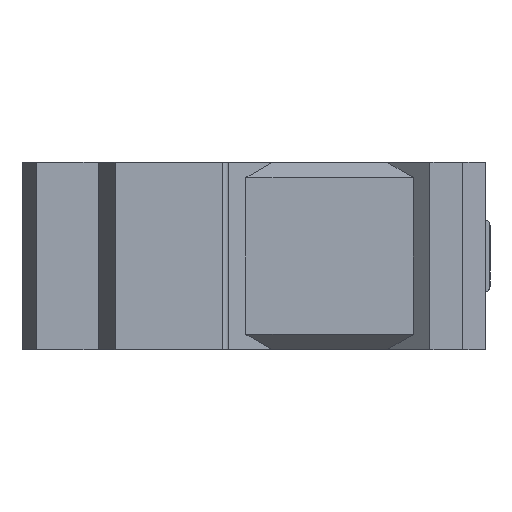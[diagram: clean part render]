
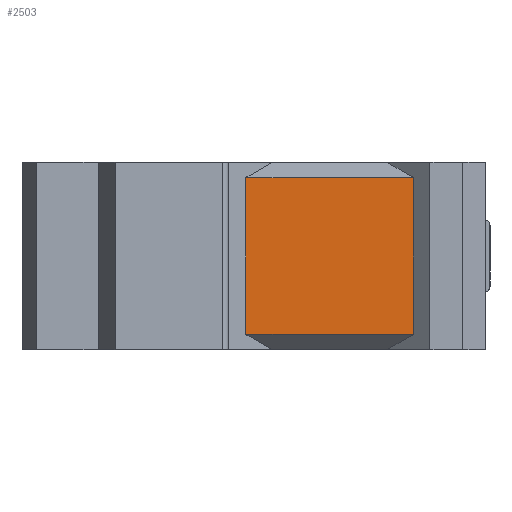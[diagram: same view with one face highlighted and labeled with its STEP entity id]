
A CAD part, left-side view. The second image highlights one B-rep face of the part: STEP entity #2503.
In plain terms, the highlighted planar face has unit normal (-1, 0, 0) as drawn and (1, 0, 0) by its records, which use the part's own axes.
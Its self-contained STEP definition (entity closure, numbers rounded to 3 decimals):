
#135 = CARTESIAN_POINT ( 'NONE',  ( 42.55, 16., 22.8 ) ) ;
#152 = FACE_OUTER_BOUND ( 'NONE', #915, .T. ) ;
#331 = VERTEX_POINT ( 'NONE', #1440 ) ;
#382 = EDGE_CURVE ( 'NONE', #2891, #2019, #928, .T. ) ;
#860 = ORIENTED_EDGE ( 'NONE', *, *, #2156, .T. ) ;
#915 = EDGE_LOOP ( 'NONE', ( #2560, #2958, #860, #1370 ) ) ;
#928 = LINE ( 'NONE', #1696, #1848 ) ;
#1237 = CARTESIAN_POINT ( 'NONE',  ( 42.55, 16., 19.05 ) ) ;
#1339 = DIRECTION ( 'NONE',  ( 0., 0., -1. ) ) ;
#1370 = ORIENTED_EDGE ( 'NONE', *, *, #382, .F. ) ;
#1440 = CARTESIAN_POINT ( 'NONE',  ( 42.55, 16., -19.05 ) ) ;
#1472 = EDGE_CURVE ( 'NONE', #1879, #2891, #1583, .T. ) ;
#1583 = LINE ( 'NONE', #2720, #1916 ) ;
#1615 = LINE ( 'NONE', #135, #2802 ) ;
#1696 = CARTESIAN_POINT ( 'NONE',  ( 42.55, 56.7, 22.8 ) ) ;
#1820 = AXIS2_PLACEMENT_3D ( 'NONE', #1860, #2248, #2945 ) ;
#1836 = CARTESIAN_POINT ( 'NONE',  ( 42.55, 56.7, -19.05 ) ) ;
#1848 = VECTOR ( 'NONE', #2642, 1000. ) ;
#1860 = CARTESIAN_POINT ( 'NONE',  ( 42.55, 56.7, 22.8 ) ) ;
#1879 = VERTEX_POINT ( 'NONE', #1237 ) ;
#1916 = VECTOR ( 'NONE', #2251, 1000. ) ;
#2019 = VERTEX_POINT ( 'NONE', #1836 ) ;
#2142 = EDGE_CURVE ( 'NONE', #1879, #331, #1615, .T. ) ;
#2156 = EDGE_CURVE ( 'NONE', #331, #2019, #2163, .T. ) ;
#2163 = LINE ( 'NONE', #2514, #2764 ) ;
#2248 = DIRECTION ( 'NONE',  ( -1., 0., 0. ) ) ;
#2251 = DIRECTION ( 'NONE',  ( 0., 1., 0. ) ) ;
#2503 = ADVANCED_FACE ( 'NONE', ( #152 ), #3079, .F. ) ;
#2514 = CARTESIAN_POINT ( 'NONE',  ( 42.55, 10.192, -19.05 ) ) ;
#2516 = CARTESIAN_POINT ( 'NONE',  ( 42.55, 56.7, 19.05 ) ) ;
#2560 = ORIENTED_EDGE ( 'NONE', *, *, #1472, .F. ) ;
#2642 = DIRECTION ( 'NONE',  ( 0., 0., -1. ) ) ;
#2720 = CARTESIAN_POINT ( 'NONE',  ( 42.55, 10.192, 19.05 ) ) ;
#2764 = VECTOR ( 'NONE', #2998, 1000. ) ;
#2802 = VECTOR ( 'NONE', #1339, 1000. ) ;
#2891 = VERTEX_POINT ( 'NONE', #2516 ) ;
#2945 = DIRECTION ( 'NONE',  ( 0., 1., 0. ) ) ;
#2958 = ORIENTED_EDGE ( 'NONE', *, *, #2142, .T. ) ;
#2998 = DIRECTION ( 'NONE',  ( 0., 1., 0. ) ) ;
#3079 = PLANE ( 'NONE',  #1820 ) ;
